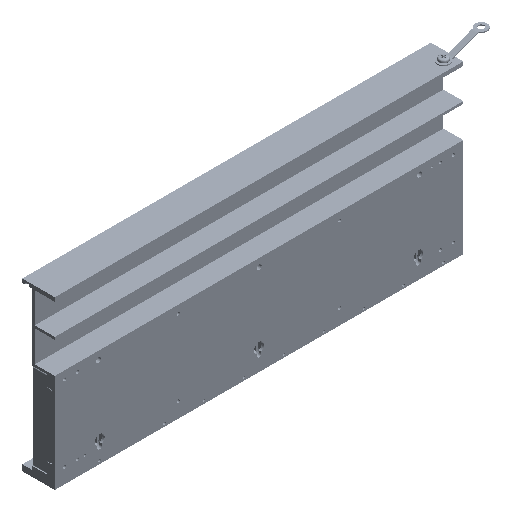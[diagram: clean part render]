
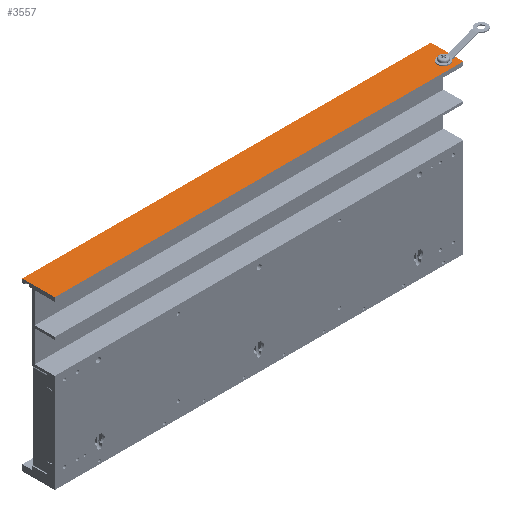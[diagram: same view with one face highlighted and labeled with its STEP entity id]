
A CAD part, isometric view. The second image highlights one B-rep face of the part: STEP entity #3557.
In plain terms, the highlighted planar face has unit normal (0, 0, 1).
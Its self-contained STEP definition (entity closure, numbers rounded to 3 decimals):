
#162=DIRECTION('',(1.,0.,0.));
#163=VECTOR('',#162,410.);
#164=CARTESIAN_POINT('',(-430.,40.,-2.5));
#165=LINE('',#164,#163);
#468=DIRECTION('',(0.,-1.,0.));
#469=VECTOR('',#468,32.66);
#470=CARTESIAN_POINT('',(-20.,40.,-2.5));
#471=LINE('',#470,#469);
#638=DIRECTION('',(0.,-1.,0.));
#639=VECTOR('',#638,32.66);
#640=CARTESIAN_POINT('',(-430.,40.,-2.5));
#641=LINE('',#640,#639);
#962=DIRECTION('',(-1.,0.,0.));
#963=VECTOR('',#962,410.);
#964=CARTESIAN_POINT('',(-20.,7.34,-2.5));
#965=LINE('',#964,#963);
#966=CARTESIAN_POINT('',(-30.,17.34,-2.5));
#967=DIRECTION('',(0.,0.,1.));
#968=DIRECTION('',(1.,0.,0.));
#969=AXIS2_PLACEMENT_3D('',#966,#967,#968);
#971=CARTESIAN_POINT('',(-30.,17.34,-2.5));
#972=DIRECTION('',(0.,0.,1.));
#973=DIRECTION('',(-1.,0.,0.));
#974=AXIS2_PLACEMENT_3D('',#971,#972,#973);
#2092=CARTESIAN_POINT('',(-430.,40.,-2.5));
#2093=CARTESIAN_POINT('',(-20.,40.,-2.5));
#2094=VERTEX_POINT('',#2092);
#2095=VERTEX_POINT('',#2093);
#2100=CARTESIAN_POINT('',(-20.,7.34,-2.5));
#2102=VERTEX_POINT('',#2100);
#2105=CARTESIAN_POINT('',(-430.,7.34,-2.5));
#2107=VERTEX_POINT('',#2105);
#2348=CARTESIAN_POINT('',(-27.5,17.34,-2.5));
#2349=CARTESIAN_POINT('',(-32.5,17.34,-2.5));
#2350=VERTEX_POINT('',#2348);
#2351=VERTEX_POINT('',#2349);
#3540=CARTESIAN_POINT('',(-430.,40.,-2.5));
#3541=DIRECTION('',(0.,0.,-1.));
#3542=DIRECTION('',(0.,-1.,0.));
#3543=AXIS2_PLACEMENT_3D('',#3540,#3541,#3542);
#3544=PLANE('',#3543);
#3545=ORIENTED_EDGE('',*,*,#3335,.T.);
#3546=ORIENTED_EDGE('',*,*,#3243,.F.);
#3547=ORIENTED_EDGE('',*,*,#2739,.T.);
#3548=ORIENTED_EDGE('',*,*,#3054,.T.);
#3549=EDGE_LOOP('',(#3545,#3546,#3547,#3548));
#3550=FACE_OUTER_BOUND('',#3549,.F.);
#3552=ORIENTED_EDGE('',*,*,#3551,.T.);
#3554=ORIENTED_EDGE('',*,*,#3553,.T.);
#3555=EDGE_LOOP('',(#3552,#3554));
#3556=FACE_BOUND('',#3555,.F.);
#3557=ADVANCED_FACE('',(#3550,#3556),#3544,.F.);
#970=CIRCLE('',#969,2.5);
#975=CIRCLE('',#974,2.5);
#2739=EDGE_CURVE('',#2094,#2095,#165,.T.);
#3054=EDGE_CURVE('',#2095,#2102,#471,.T.);
#3243=EDGE_CURVE('',#2094,#2107,#641,.T.);
#3335=EDGE_CURVE('',#2102,#2107,#965,.T.);
#3551=EDGE_CURVE('',#2350,#2351,#970,.T.);
#3553=EDGE_CURVE('',#2351,#2350,#975,.T.);
